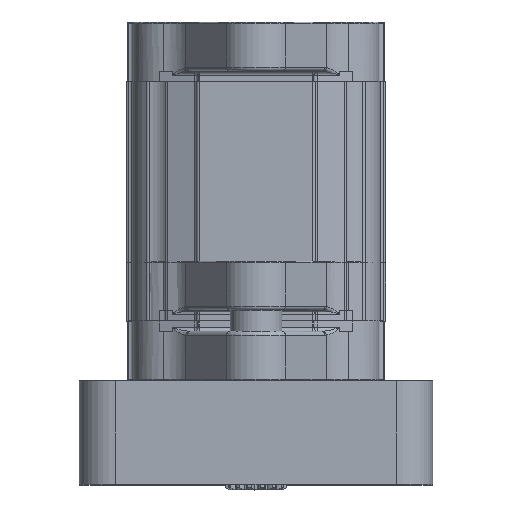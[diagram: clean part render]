
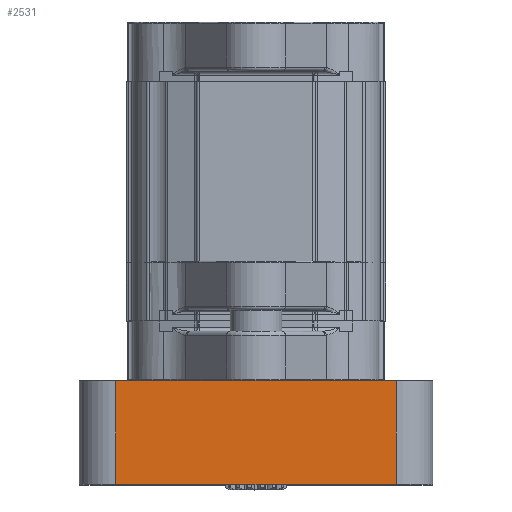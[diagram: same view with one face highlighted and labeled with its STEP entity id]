
A CAD part, top view. The second image highlights one B-rep face of the part: STEP entity #2531.
In plain terms, the highlighted planar face has unit normal (0, 0, 1).
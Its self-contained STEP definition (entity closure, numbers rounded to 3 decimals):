
#2531 = ADVANCED_FACE( '', ( #5401 ), #5402, .F. );
#5401 = FACE_OUTER_BOUND( '', #9909, .T. );
#5402 = PLANE( '', #9910 );
#9909 = EDGE_LOOP( '', ( #17606, #17607, #17608, #17609 ) );
#9910 = AXIS2_PLACEMENT_3D( '', #17610, #17611, #17612 );
#17606 = ORIENTED_EDGE( '', *, *, #22599, .T. );
#17607 = ORIENTED_EDGE( '', *, *, #22600, .F. );
#17608 = ORIENTED_EDGE( '', *, *, #22433, .F. );
#17609 = ORIENTED_EDGE( '', *, *, #21006, .T. );
#17610 = CARTESIAN_POINT( '', ( -27., -11.5, 40.05 ) );
#17611 = DIRECTION( '', ( 0., 0., -1. ) );
#17612 = DIRECTION( '', ( 1., 0., 0. ) );
#21006 = EDGE_CURVE( '', #25428, #25426, #25429, .T. );
#22433 = EDGE_CURVE( '', #25428, #27342, #27343, .T. );
#22599 = EDGE_CURVE( '', #25426, #27544, #27545, .T. );
#22600 = EDGE_CURVE( '', #27342, #27544, #27546, .T. );
#25426 = VERTEX_POINT( '', #32806 );
#25428 = VERTEX_POINT( '', #32808 );
#25429 = LINE( '', #32809, #32810 );
#27342 = VERTEX_POINT( '', #36671 );
#27343 = LINE( '', #36672, #36673 );
#27544 = VERTEX_POINT( '', #37002 );
#27545 = LINE( '', #37003, #37004 );
#27546 = LINE( '', #37005, #37006 );
#32806 = CARTESIAN_POINT( '', ( -27., -31.5, 40.05 ) );
#32808 = CARTESIAN_POINT( '', ( -27., -11.5, 40.05 ) );
#32809 = CARTESIAN_POINT( '', ( -27., -11.5, 40.05 ) );
#32810 = VECTOR( '', #39701, 1000. );
#36671 = CARTESIAN_POINT( '', ( 27., -11.5, 40.05 ) );
#36672 = CARTESIAN_POINT( '', ( -27., -11.5, 40.05 ) );
#36673 = VECTOR( '', #41419, 1000. );
#37002 = CARTESIAN_POINT( '', ( 27., -31.5, 40.05 ) );
#37003 = CARTESIAN_POINT( '', ( -27., -31.5, 40.05 ) );
#37004 = VECTOR( '', #41625, 1000. );
#37005 = CARTESIAN_POINT( '', ( 27., -11.5, 40.05 ) );
#37006 = VECTOR( '', #41626, 1000. );
#39701 = DIRECTION( '', ( 0., -1., 0. ) );
#41419 = DIRECTION( '', ( 1., 0., 0. ) );
#41625 = DIRECTION( '', ( 1., 0., 0. ) );
#41626 = DIRECTION( '', ( 0., -1., 0. ) );
